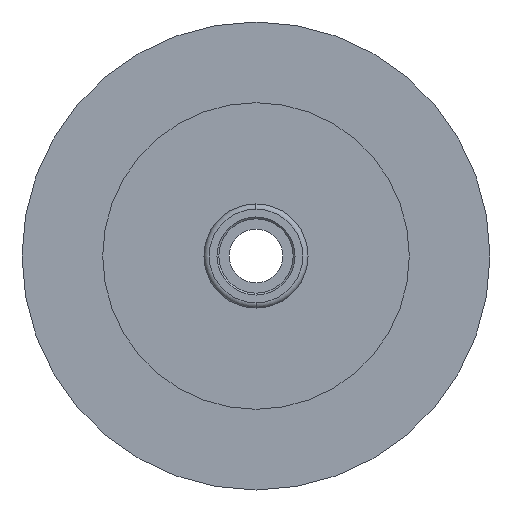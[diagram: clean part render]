
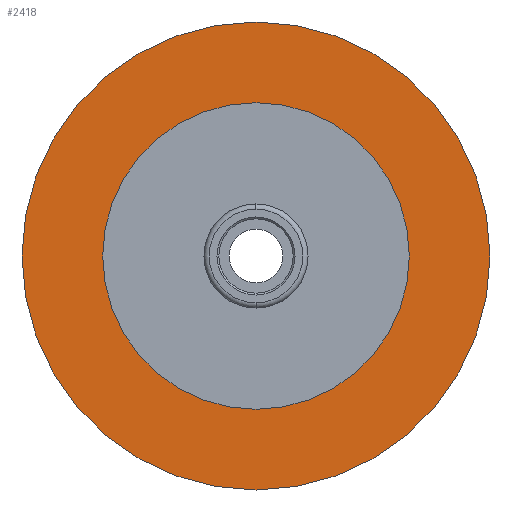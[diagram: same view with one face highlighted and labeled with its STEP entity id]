
A CAD part, left-side view. The second image highlights one B-rep face of the part: STEP entity #2418.
In plain terms, the highlighted planar face has unit normal (-1, 0, 0).
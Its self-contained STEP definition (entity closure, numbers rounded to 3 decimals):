
#2042=CARTESIAN_POINT('',(0.0,13.1,0.0));
#2043=VERTEX_POINT('',#2042);
#2052=CARTESIAN_POINT('',(0.0,-13.1,0.));
#2053=VERTEX_POINT('',#2052);
#2054=CARTESIAN_POINT('',(0.0,0.0,0.0));
#2055=DIRECTION('',(1.0,0.0,0.0));
#2056=DIRECTION('',(0.0,1.0,0.0));
#2057=AXIS2_PLACEMENT_3D('',#2054,#2055,#2056);
#2058=CIRCLE('',#2057,13.1);
#2059=EDGE_CURVE('',#2053,#2043,#2058,.T.);
#2229=CARTESIAN_POINT('',(0.0,20.0,0.0));
#2230=VERTEX_POINT('',#2229);
#2237=CARTESIAN_POINT('',(0.0,-20.,0.));
#2238=VERTEX_POINT('',#2237);
#2239=CARTESIAN_POINT('',(0.0,0.0,0.0));
#2240=DIRECTION('',(1.0,0.0,0.0));
#2241=DIRECTION('',(0.0,1.0,0.0));
#2242=AXIS2_PLACEMENT_3D('',#2239,#2240,#2241);
#2243=CIRCLE('',#2242,20.);
#2244=EDGE_CURVE('',#2230,#2238,#2243,.T.);
#2280=CARTESIAN_POINT('',(0.0,0.0,0.0));
#2281=DIRECTION('',(1.0,0.0,0.0));
#2282=DIRECTION('',(0.0,1.0,0.0));
#2283=AXIS2_PLACEMENT_3D('',#2280,#2281,#2282);
#2284=CIRCLE('',#2283,20.);
#2285=EDGE_CURVE('',#2238,#2230,#2284,.T.);
#2395=CARTESIAN_POINT('',(0.0,0.0,0.0));
#2396=DIRECTION('',(1.0,0.0,0.0));
#2397=DIRECTION('',(0.0,1.0,0.0));
#2398=AXIS2_PLACEMENT_3D('',#2395,#2396,#2397);
#2399=CIRCLE('',#2398,13.1);
#2400=EDGE_CURVE('',#2043,#2053,#2399,.T.);
#2405=CARTESIAN_POINT('',(0.0,16.55,0.0));
#2406=DIRECTION('',(-1.0,0.0,0.0));
#2407=DIRECTION('',(0.0,0.0,1.0));
#2408=AXIS2_PLACEMENT_3D('',#2405,#2406,#2407);
#2409=PLANE('',#2408);
#2410=ORIENTED_EDGE('',*,*,#2244,.F.);
#2411=ORIENTED_EDGE('',*,*,#2285,.F.);
#2412=EDGE_LOOP('',(#2410,#2411));
#2413=FACE_OUTER_BOUND('',#2412,.T.);
#2414=ORIENTED_EDGE('',*,*,#2400,.T.);
#2415=ORIENTED_EDGE('',*,*,#2059,.T.);
#2416=EDGE_LOOP('',(#2414,#2415));
#2417=FACE_BOUND('',#2416,.T.);
#2418=ADVANCED_FACE('',(#2413,#2417),#2409,.T.);
